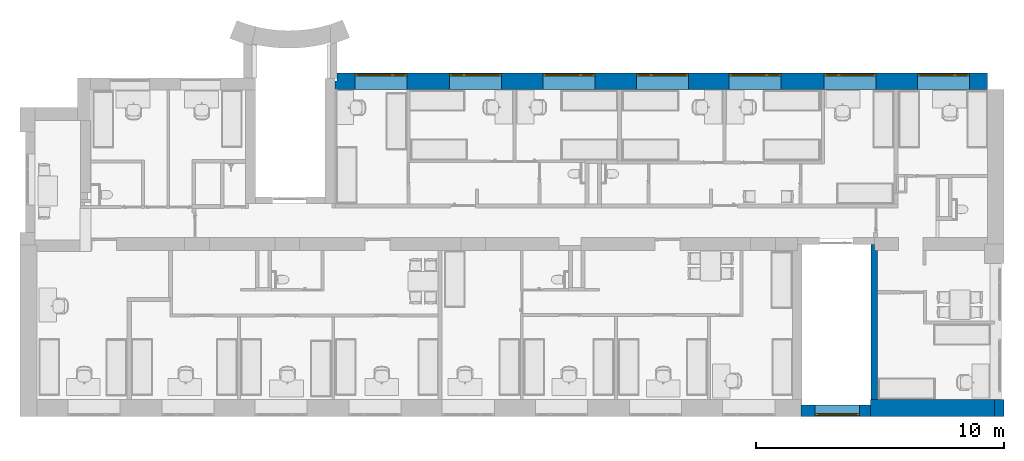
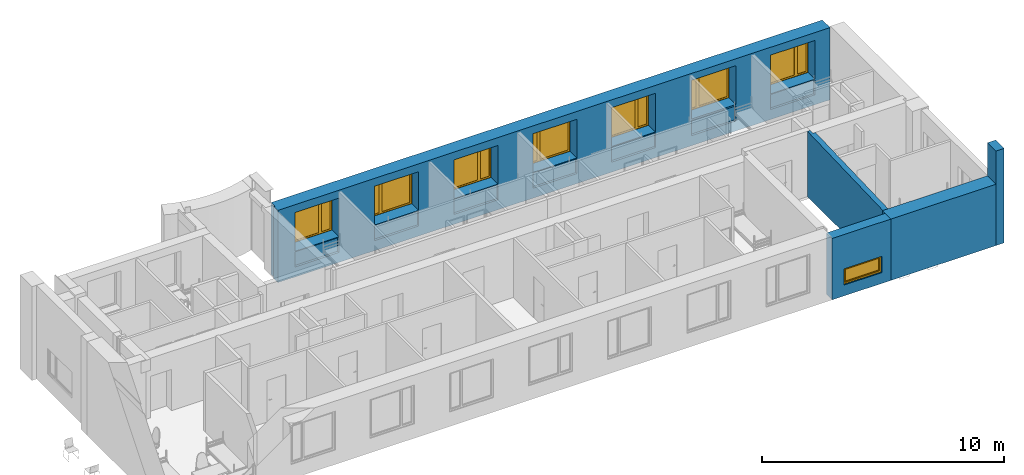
# One storey, part 11 of 46: 8 windows, 5 walls, 10 openings.
"""IFC2X3 building model written with IfcOpenShell, lengths in millimetres."""

from ifc_helpers import new_model, entity, si_unit, converted_unit, derived_unit, direction, frame, frame_2d, origin, place, context, subcontext, project, spatial, polyline, rectangle, outline, extrude, clip, bounded_halfspace, faceted_brep, source, transform, mapped, material, material_list, layer, layer_set, layer_usage, type_object, type_shapes, element, fill, save


model = new_model("IFC2X3")

# Units and contexts
model_context = context("Model", 3, precision=0.01, world=origin(), true_north=direction((6.12303176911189e-17, 1.0)))
body_context = subcontext(model_context, "Body", "Model", "MODEL_VIEW")
ifc_project = project(units=[si_unit("LENGTHUNIT", "METRE", prefix="MILLI"), si_unit("AREAUNIT", "SQUARE_METRE"), si_unit("VOLUMEUNIT", "CUBIC_METRE"), converted_unit("PLANEANGLEUNIT", "DEGREE", entity("IfcRatioMeasure", 0.0174532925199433), si_unit("PLANEANGLEUNIT", "RADIAN"), dimensions=[0, 0, 0, 0, 0, 0, 0]), si_unit("MASSUNIT", "GRAM", prefix="KILO"), derived_unit("MASSDENSITYUNIT", [(si_unit("MASSUNIT", "GRAM", prefix="KILO"), 1), (si_unit("LENGTHUNIT", "METRE"), -3)]), si_unit("TIMEUNIT", "SECOND"), si_unit("FREQUENCYUNIT", "HERTZ"), si_unit("THERMODYNAMICTEMPERATUREUNIT", "DEGREE_CELSIUS"), derived_unit("THERMALTRANSMITTANCEUNIT", [(si_unit("MASSUNIT", "GRAM", prefix="KILO"), 1), (si_unit("THERMODYNAMICTEMPERATUREUNIT", "KELVIN"), -1), (si_unit("TIMEUNIT", "SECOND"), -3)]), derived_unit("VOLUMETRICFLOWRATEUNIT", [(si_unit("LENGTHUNIT", "METRE"), 3), (si_unit("TIMEUNIT", "SECOND"), -1)]), si_unit("ELECTRICCURRENTUNIT", "AMPERE"), si_unit("ELECTRICVOLTAGEUNIT", "VOLT"), si_unit("POWERUNIT", "WATT"), si_unit("FORCEUNIT", "NEWTON", prefix="KILO"), si_unit("ILLUMINANCEUNIT", "LUX"), si_unit("LUMINOUSFLUXUNIT", "LUMEN"), si_unit("LUMINOUSINTENSITYUNIT", "CANDELA"), derived_unit("USERDEFINED", [(si_unit("MASSUNIT", "GRAM", prefix="KILO"), -1), (si_unit("LENGTHUNIT", "METRE"), -2), (si_unit("TIMEUNIT", "SECOND"), 3), (si_unit("LUMINOUSFLUXUNIT", "LUMEN"), 1)]), derived_unit("LINEARVELOCITYUNIT", [(si_unit("LENGTHUNIT", "METRE"), 1), (si_unit("TIMEUNIT", "SECOND"), -1)]), si_unit("PRESSUREUNIT", "PASCAL"), derived_unit("USERDEFINED", [(si_unit("LENGTHUNIT", "METRE"), -2), (si_unit("MASSUNIT", "GRAM", prefix="KILO"), 1), (si_unit("TIMEUNIT", "SECOND"), -2)]), derived_unit("LINEARFORCEUNIT", [(si_unit("MASSUNIT", "GRAM", prefix="KILO"), 1), (si_unit("LENGTHUNIT", "METRE"), 1), (si_unit("TIMEUNIT", "SECOND"), -2), (si_unit("LENGTHUNIT", "METRE"), -1)]), derived_unit("PLANARFORCEUNIT", [(si_unit("MASSUNIT", "GRAM", prefix="KILO"), 1), (si_unit("LENGTHUNIT", "METRE"), 1), (si_unit("TIMEUNIT", "SECOND"), -2), (si_unit("LENGTHUNIT", "METRE"), -2)])], contexts=[model_context])

# Site, building, storey
site_placement = place(None, origin())
site = spatial("IfcSite", under=ifc_project, at=site_placement, Name="Default", CompositionType="ELEMENT")
building_placement = place(site_placement, origin())
building = spatial("IfcBuilding", under=site, at=building_placement, Name="SMA ARH", CompositionType="ELEMENT")
storey_placement = place(building_placement, frame((0.0, 0.0, 9910.0)))
storey = spatial("IfcBuildingStorey", under=building, at=storey_placement, Name="4 Korrus", CompositionType="ELEMENT", Elevation=9909.9999999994)

# Wall, opening
ifc_material_1 = material(Name="_ol.olev sein")
ifc_layer_1 = layer(ifc_material_1, 700.0)
ifc_layer_set_1 = layer_set([ifc_layer_1], Name="Basic Wall:Generic - 700mm")
ifc_layer_usage_1 = layer_usage(ifc_layer_set_1, "AXIS2", "POSITIVE", -350.0)
wall_type_1 = type_object("IfcWallType", Name="Basic Wall:Generic - 700mm", PredefinedType="STANDARD", material=ifc_layer_set_1)
wall_1_placement = place(storey_placement, frame((33580.5990008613, -350.0, 0.0)))
wall_1 = element("IfcWallStandardCase", 1, at=wall_1_placement, inside=storey, type_object=wall_type_1, material=ifc_layer_usage_1, Name="Basic Wall:Generic - 700mm", ObjectType="Basic Wall:Generic - 700mm", context=body_context, shape_type="Clipping", body=[
    clip(extrude(rectangle(XDim=5010.00000000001, YDim=700.0, at=frame_2d((2505.0, -5.6843418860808e-14), x_axis=(-1.0, 0.0))), origin(), (0.0, 0.0, 1.0), 3090.00000000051), bounded_halfspace(frame((0.0, -350.0, 3090.0), z_axis=(0.0, 0.0, -1.0), x_axis=(0.0, -1.0, 0.0)), True, frame((0.0, -350.0, 3090.0), z_axis=(0.0, 0.0, -1.0), x_axis=(0.0, -1.0, 0.0)), polyline([(0.0, 0.0), (-470.0, 0.0), (-700.0, 0.0), (-700.0, -5009.30199827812), (-700.0, -5010.0), (0.0, -5010.0), (0.0, 0.0)]))),
])
opening_1_placement = place(wall_1_placement, origin())
element("IfcOpeningElement", 2, at=opening_1_placement, cuts=wall_1, Name="Basic Wall:Generic - 700mm", ObjectType="Opening", context=body_context, shape_type="SweptSolid", body=[
    extrude(rectangle(XDim=820.0, YDim=1800.0, at=frame_2d((0.0, 0.0), x_axis=(0.0, 1.0))), frame((-1330.59900086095, -1404.0, 955.0), z_axis=(0.0, 1.0, 0.0), x_axis=(-1.0, 0.0, 0.0)), (0.0, 0.0, 1.0), 3048.0),
])

# Wall, openings, windows
ifc_layer_2 = layer(ifc_material_1, 665.0)
ifc_layer_set_2 = layer_set([ifc_layer_2], Name="Basic Wall:Generic - 665mm")
ifc_layer_usage_2 = layer_usage(ifc_layer_set_2, "AXIS2", "POSITIVE", -332.5)
wall_type_2 = type_object("IfcWallType", Name="Basic Wall:Generic - 665mm", PredefinedType="STANDARD", material=ifc_layer_set_2)
wall_2_placement = place(storey_placement, frame((38965.0, 12832.4999999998, -563.353004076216), z_axis=(0.0, 0.0, 1.0), x_axis=(-1.0, 0.0, 0.0)))
wall_2 = element("IfcWallStandardCase", 3, at=wall_2_placement, inside=storey, type_object=wall_type_2, material=ifc_layer_usage_2, Name="Basic Wall:Generic - 665mm", ObjectType="Basic Wall:Generic - 665mm", context=body_context, shape_type="Clipping", body=[
    clip(clip(extrude(outline(polyline([(26895.0, -332.500000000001), (26895.0, 0.0), (26965.0, 0.0), (26965.0, 332.5), (650.0, 332.5), (650.0, -332.5), (26895.0, -332.500000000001)])), origin(), (0.0, 0.0, 1.0), 3708.35300407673), bounded_halfspace(frame((391.75715011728, 332.5, 3636.57531578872), z_axis=(0.0, -0.0348994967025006, 0.999390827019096), x_axis=(1.0, 0.0, 0.0)), False, frame((391.75715011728, 332.5, 3636.57531578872), z_axis=(0.0, -0.0348994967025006, 0.999390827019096), x_axis=(1.0, 0.0, 0.0)), polyline([(0.0, 0.0), (0.0, -665.405346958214), (26503.2428498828, -665.405346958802), (26503.2428498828, -445.271247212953), (26573.2428498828, -445.271247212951), (26573.2428498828, 0.0), (228.242849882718, 0.0), (0.0, 0.0)]))), bounded_halfspace(frame((391.757150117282, -332.499999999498, 3613.35300407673), z_axis=(-1.0, 0.0, 0.0), x_axis=(0.0, -1.0, 0.0)), True, frame((391.757150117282, -332.499999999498, 3613.35300407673), z_axis=(-1.0, 0.0, 0.0), x_axis=(0.0, -1.0, 0.0)), polyline([(0.0, 0.0), (0.0, 95.0), (-665.0, 95.0), (-665.0, 23.2223117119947), (0.0, 0.0)]))),
])
opening_2_placement = place(wall_2_placement, origin())
element("IfcOpeningElement", 4, at=opening_2_placement, cuts=wall_2, Name="Basic Wall:Generic - 665mm", ObjectType="Recess", context=body_context, shape_type="SweptSolid", body=[
    extrude(rectangle(XDim=757.825710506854, YDim=2099.99999999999, at=frame_2d((0.0, 0.0), x_axis=(0.0, 1.0))), frame((21305.0, 232.499999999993, 882.265859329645), z_axis=(0.0, 1.0, 0.0), x_axis=(1.0, 0.0, 0.0)), (0.0, 0.0, 1.0), 99.9999999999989),
    extrude(rectangle(XDim=757.825710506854, YDim=2099.99999999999, at=frame_2d((0.0, 0.0), x_axis=(0.0, 1.0))), frame((25105.0, 232.499999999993, 882.265859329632), z_axis=(0.0, 1.0, 0.0), x_axis=(1.0, 0.0, 0.0)), (0.0, 0.0, 1.0), 99.9999999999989),
    extrude(rectangle(XDim=757.825710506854, YDim=2099.99999999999, at=frame_2d((0.0, 0.0), x_axis=(0.0, 1.0))), frame((17525.0, 232.499999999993, 882.265859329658), z_axis=(0.0, 1.0, 0.0), x_axis=(1.0, 0.0, 0.0)), (0.0, 0.0, 1.0), 99.9999999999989),
    extrude(rectangle(XDim=757.825710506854, YDim=2099.99999999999, at=frame_2d((0.0, 0.0), x_axis=(0.0, 1.0))), frame((13765.0, 232.499999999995, 882.265859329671), z_axis=(0.0, 1.0, 0.0), x_axis=(1.0, 0.0, 0.0)), (0.0, 0.0, 1.0), 99.9999999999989),
    extrude(rectangle(XDim=757.825710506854, YDim=2099.99999999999, at=frame_2d((0.0, 0.0), x_axis=(0.0, 1.0))), frame((10025.0, 232.499999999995, 882.265859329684), z_axis=(0.0, 1.0, 0.0), x_axis=(1.0, 0.0, 0.0)), (0.0, 0.0, 1.0), 99.9999999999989),
    extrude(rectangle(XDim=757.825710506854, YDim=2099.99999999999, at=frame_2d((0.0, 0.0), x_axis=(0.0, 1.0))), frame((6200.0, 232.499999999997, 882.265859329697), z_axis=(0.0, 1.0, 0.0), x_axis=(1.0, 0.0, 0.0)), (0.0, 0.0, 1.0), 99.9999999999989),
    extrude(rectangle(XDim=757.825710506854, YDim=2099.99999999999, at=frame_2d((0.0, 0.0), x_axis=(0.0, 1.0))), frame((2435.0, 232.499999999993, 882.26585932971), z_axis=(0.0, 1.0, 0.0), x_axis=(1.0, 0.0, 0.0)), (0.0, 0.0, 1.0), 100.000000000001),
])
opening_3_placement = place(wall_2_placement, frame((3485.0, 332.499999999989, 1293.35300407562)))
opening_3 = element("IfcOpeningElement", 5, at=opening_3_placement, cuts=wall_2, Name="SMA_W2, 2-jaotus:A-00 - 2100x1900:1", ObjectType="Opening", context=body_context, shape_type="SweptSolid", body=[
    extrude(rectangle(XDim=1950.0, YDim=2100.0, at=frame_2d((974.999999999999, 1050.0), x_axis=(1.0, 0.0))), frame((0.0, 0.0, 0.0), z_axis=(0.0, -1.0, 0.0), x_axis=(0.0, 0.0, 1.0)), (0.0, 0.0, 1.0), 665.0),
])
opening_4_placement = place(wall_2_placement, frame((7250.0, 332.499999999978, 1338.35300407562)))
opening_4 = element("IfcOpeningElement", 6, at=opening_4_placement, cuts=wall_2, Name="SMA_W2, 2-jaotus:A-00 - 2100x1900:1", ObjectType="Opening", context=body_context, shape_type="SweptSolid", body=[
    extrude(rectangle(XDim=1950.0, YDim=2100.0, at=frame_2d((974.999999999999, 1050.0), x_axis=(1.0, 0.0))), frame((0.0, 0.0, 0.0), z_axis=(0.0, -1.0, 0.0), x_axis=(0.0, 0.0, 1.0)), (0.0, 0.0, 1.0), 665.0),
])
opening_5_placement = place(wall_2_placement, frame((11075.0, 332.499999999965, 1293.35300407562)))
opening_5 = element("IfcOpeningElement", 7, at=opening_5_placement, cuts=wall_2, Name="SMA_W2, 2-jaotus:A-00 - 2100x1900:1", ObjectType="Opening", context=body_context, shape_type="SweptSolid", body=[
    extrude(rectangle(XDim=1950.0, YDim=2100.0, at=frame_2d((974.999999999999, 1050.0), x_axis=(1.0, 0.0))), frame((0.0, 0.0, 0.0), z_axis=(0.0, -1.0, 0.0), x_axis=(0.0, 0.0, 1.0)), (0.0, 0.0, 1.0), 665.0),
])
opening_6_placement = place(wall_2_placement, frame((14815.0, 332.499999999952, 1293.35300407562)))
opening_6 = element("IfcOpeningElement", 8, at=opening_6_placement, cuts=wall_2, Name="SMA_W2, 2-jaotus:A-00 - 2100x1900:1", ObjectType="Opening", context=body_context, shape_type="SweptSolid", body=[
    extrude(rectangle(XDim=1950.0, YDim=2100.0, at=frame_2d((974.999999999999, 1050.0), x_axis=(1.0, 0.0))), frame((0.0, 0.0, 0.0), z_axis=(0.0, -1.0, 0.0), x_axis=(0.0, 0.0, 1.0)), (0.0, 0.0, 1.0), 665.0),
])
opening_7_placement = place(wall_2_placement, frame((18575.0, 332.499999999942, 1293.35300407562)))
opening_7 = element("IfcOpeningElement", 9, at=opening_7_placement, cuts=wall_2, Name="SMA_W2, 2-jaotus:A-00 - 2100x1900:1", ObjectType="Opening", context=body_context, shape_type="SweptSolid", body=[
    extrude(rectangle(XDim=1950.0, YDim=2100.0, at=frame_2d((974.999999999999, 1050.0), x_axis=(1.0, 0.0))), frame((0.0, 0.0, 0.0), z_axis=(0.0, -1.0, 0.0), x_axis=(0.0, 0.0, 1.0)), (0.0, 0.0, 1.0), 665.0),
])
opening_8_placement = place(wall_2_placement, frame((22355.0, 332.499999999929, 1293.35300407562)))
opening_8 = element("IfcOpeningElement", 10, at=opening_8_placement, cuts=wall_2, Name="SMA_W2, 2-jaotus:A-00 - 2100x1900:1", ObjectType="Opening", context=body_context, shape_type="SweptSolid", body=[
    extrude(rectangle(XDim=1950.0, YDim=2100.0, at=frame_2d((974.999999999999, 1050.0), x_axis=(1.0, 0.0))), frame((0.0, 0.0, 0.0), z_axis=(0.0, -1.0, 0.0), x_axis=(0.0, 0.0, 1.0)), (0.0, 0.0, 1.0), 665.0),
])
opening_9_placement = place(wall_2_placement, frame((26155.0, 332.499999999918, 1293.35300407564)))
opening_9 = element("IfcOpeningElement", 11, at=opening_9_placement, cuts=wall_2, Name="SMA_W2, 2-jaotus:A-00 - 2100x1900:1", ObjectType="Opening", context=body_context, shape_type="SweptSolid", body=[
    extrude(rectangle(XDim=1950.0, YDim=2100.0, at=frame_2d((974.999999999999, 1050.0), x_axis=(1.0, 0.0))), frame((0.0, 0.0, 0.0), z_axis=(0.0, -1.0, 0.0), x_axis=(0.0, 0.0, 1.0)), (0.0, 0.0, 1.0), 665.0),
])
ifc_material_2 = material(Name="Glass")
ifc_material_3 = material(Name="Hall")
ifc_material_list_1 = material_list([ifc_material_2, ifc_material_3])
ifc_material_4 = material(Name="<Unnamed>")
ifc_material_list_2 = material_list([ifc_material_3, ifc_material_4, ifc_material_3, ifc_material_4, ifc_material_2])
window_style_1 = type_object("IfcWindowStyle", Name="SMA_W2, 2-jaotus:A-00 - 2100x1900", ConstructionType="NOTDEFINED", OperationType="NOTDEFINED", ParameterTakesPrecedence=False, Sizeable=False, material=ifc_material_list_2)
shared_shape_1 = source(origin(), body_context, "Body", "Brep", [
    faceted_brep([(105.0, 555.0, 1845.0), (105.0, 555.0, 105.0), (1440.0, 555.0, 105.0), (1440.0, 555.0, 1845.0), (105.0, 575.0, 1845.0), (105.0, 575.0, 105.0), (1440.0, 575.0, 105.0), (1440.0, 575.0, 1845.0)], [[[0, 1, 2, 3]], [[1, 0, 4, 5]], [[2, 1, 5, 6]], [[3, 2, 6, 7]], [[4, 7, 6, 5]], [[0, 3, 7, 4]]]),
    faceted_brep([(1580.0, 555.0, 105.0), (1995.0, 555.0, 105.0), (1995.0, 555.0, 1845.0), (1580.0, 555.0, 1845.0), (1580.0, 575.0, 105.0), (1995.0, 575.0, 105.0), (1995.0, 575.0, 1845.0), (1580.0, 575.0, 1845.0)], [[[0, 1, 2, 3]], [[1, 0, 4, 5]], [[2, 1, 5, 6]], [[0, 3, 7, 4]], [[4, 7, 6, 5]], [[3, 2, 6, 7]]]),
    faceted_brep([(35.0, 540.0, 35.0), (1510.0, 540.0, 35.0), (1510.0, 540.0, 1915.0), (35.0, 540.0, 1915.0), (1440.0, 540.0, 1845.0), (1440.0, 540.0, 105.0), (105.0, 540.0, 105.0), (105.0, 540.0, 1845.0), (35.0, 590.0, 35.0), (1510.0, 590.0, 35.0), (1510.0, 590.0, 1915.0), (35.0, 590.0, 1915.0), (1440.0, 590.0, 1845.0), (1440.0, 590.0, 105.0), (105.0, 590.0, 105.0), (105.0, 590.0, 1845.0)], [[[0, 1, 2, 3], [4, 5, 6, 7]], [[1, 0, 8, 9]], [[2, 1, 9, 10]], [[0, 3, 11, 8]], [[5, 4, 12, 13]], [[6, 5, 13, 14]], [[7, 6, 14, 15]], [[8, 11, 10, 9], [12, 15, 14, 13]], [[3, 2, 10, 11]], [[4, 7, 15, 12]]]),
    faceted_brep([(1510.0, 540.0, 35.0), (2065.0, 540.0, 35.0), (2065.0, 540.0, 1915.0), (1510.0, 540.0, 1915.0), (1995.0, 540.0, 1845.0), (1995.0, 540.0, 105.0), (1580.0, 540.0, 105.0), (1580.0, 540.0, 1845.0), (1510.0, 590.0, 35.0), (2065.0, 590.0, 35.0), (2065.0, 590.0, 1915.0), (1510.0, 590.0, 1915.0), (1995.0, 590.0, 1845.0), (1995.0, 590.0, 105.0), (1580.0, 590.0, 105.0), (1580.0, 590.0, 1845.0)], [[[0, 1, 2, 3], [4, 5, 6, 7]], [[1, 0, 8, 9]], [[2, 1, 9, 10]], [[0, 3, 11, 8]], [[5, 4, 12, 13]], [[6, 5, 13, 14]], [[7, 6, 14, 15]], [[8, 11, 10, 9], [12, 15, 14, 13]], [[3, 2, 10, 11]], [[4, 7, 15, 12]]]),
    faceted_brep([(0.0, 565.0, 0.0), (2100.0, 565.0, 0.0), (2100.0, 565.0, 1950.0), (0.0, 565.0, 1950.0), (2065.0, 565.0, 35.0), (1510.0, 565.0, 35.0), (1510.0, 565.0, 1915.0), (2065.0, 565.0, 1915.0), (70.0, 565.0, 1880.0), (1475.0, 565.0, 1880.0), (1475.0, 565.0, 70.0), (70.0, 565.0, 70.0), (0.0, 615.0, 0.0), (2100.0, 615.0, 0.0), (2100.0, 615.0, 1950.0), (0.0, 615.0, 1950.0), (1475.0, 615.0, 1880.0), (1475.0, 615.0, 70.0), (70.0, 615.0, 70.0), (70.0, 615.0, 1880.0), (2065.0, 590.0, 35.0), (1510.0, 590.0, 35.0), (1510.0, 590.0, 1915.0), (2065.0, 590.0, 1915.0), (1545.0, 615.0, 1880.0), (1545.0, 615.0, 70.0), (2030.0, 615.0, 70.0), (2030.0, 615.0, 1880.0), (1545.0, 590.0, 1880.0), (1545.0, 590.0, 70.0), (2030.0, 590.0, 70.0), (2030.0, 590.0, 1880.0)], [[[0, 1, 2, 3], [4, 5, 6, 7], [8, 9, 10, 11]], [[1, 0, 12, 13]], [[2, 1, 13, 14]], [[0, 3, 15, 12]], [[10, 9, 16, 17]], [[11, 10, 17, 18]], [[8, 11, 18, 19]], [[20, 21, 5, 4]], [[21, 22, 6, 5]], [[23, 20, 4, 7]], [[12, 15, 14, 13], [19, 18, 17, 16], [24, 25, 26, 27]], [[25, 24, 28, 29]], [[26, 25, 29, 30]], [[27, 26, 30, 31]], [[21, 20, 23, 22], [28, 31, 30, 29]], [[3, 2, 14, 15]], [[9, 8, 19, 16]], [[22, 23, 7, 6]], [[24, 27, 31, 28]]]),
])
type_shapes(window_style_1, [shared_shape_1])
window_1_placement = place(opening_3_placement, frame((0.0, 0.0, 0.0), z_axis=(0.0, 0.0, 1.0), x_axis=(-1.0, 0.0, 0.0)))
window_1 = element("IfcWindow", 12, at=window_1_placement, inside=storey, type_object=window_style_1, material=ifc_material_list_1, Name="SMA_W2, 2-jaotus:A-00 - 2100x1900", ObjectType="SMA_W2, 2-jaotus:A-00 - 2100x1900", OverallHeight=1950.0, OverallWidth=2100.0, context=body_context, shape_type="MappedRepresentation", body=[
    mapped(shared_shape_1, transform((0.0, 0.0, 0.0), scale=1.0)),
])
fill(opening_3, window_1)
ifc_material_list_3 = material_list([ifc_material_2, ifc_material_3])
window_2_placement = place(opening_5_placement, frame((0.0, 0.0, 0.0), z_axis=(0.0, 0.0, 1.0), x_axis=(-1.0, 0.0, 0.0)))
window_2 = element("IfcWindow", 13, at=window_2_placement, inside=storey, type_object=window_style_1, material=ifc_material_list_3, Name="SMA_W2, 2-jaotus:A-00 - 2100x1900", ObjectType="SMA_W2, 2-jaotus:A-00 - 2100x1900", OverallHeight=1950.0, OverallWidth=2100.0, context=body_context, shape_type="MappedRepresentation", body=[
    mapped(shared_shape_1, transform((0.0, 0.0, 0.0), scale=1.0)),
])
fill(opening_5, window_2)
ifc_material_list_4 = material_list([ifc_material_2, ifc_material_3])
window_3_placement = place(opening_7_placement, frame((0.0, 0.0, 0.0), z_axis=(0.0, 0.0, 1.0), x_axis=(-1.0, 0.0, 0.0)))
window_3 = element("IfcWindow", 14, at=window_3_placement, inside=storey, type_object=window_style_1, material=ifc_material_list_4, Name="SMA_W2, 2-jaotus:A-00 - 2100x1900", ObjectType="SMA_W2, 2-jaotus:A-00 - 2100x1900", OverallHeight=1950.0, OverallWidth=2100.0, context=body_context, shape_type="MappedRepresentation", body=[
    mapped(shared_shape_1, transform((0.0, 0.0, 0.0), scale=1.0)),
])
fill(opening_7, window_3)
ifc_material_list_5 = material_list([ifc_material_2, ifc_material_3])
window_4_placement = place(opening_9_placement, frame((0.0, 0.0, 0.0), z_axis=(0.0, 0.0, 1.0), x_axis=(-1.0, 0.0, 0.0)))
window_4 = element("IfcWindow", 15, at=window_4_placement, inside=storey, type_object=window_style_1, material=ifc_material_list_5, Name="SMA_W2, 2-jaotus:A-00 - 2100x1900", ObjectType="SMA_W2, 2-jaotus:A-00 - 2100x1900", OverallHeight=1950.0, OverallWidth=2100.0, context=body_context, shape_type="MappedRepresentation", body=[
    mapped(shared_shape_1, transform((0.0, 0.0, 0.0), scale=1.0)),
])
fill(opening_9, window_4)
ifc_material_list_6 = material_list([ifc_material_2, ifc_material_3])
ifc_material_list_7 = material_list([ifc_material_3, ifc_material_4, ifc_material_3, ifc_material_4, ifc_material_2])
window_style_2 = type_object("IfcWindowStyle", Name="SMA_W2, 2-jaotus:A-00 - 2100x1900", ConstructionType="NOTDEFINED", OperationType="NOTDEFINED", ParameterTakesPrecedence=False, Sizeable=False, material=ifc_material_list_7)
shared_shape_2 = source(origin(), body_context, "Body", "Brep", [
    faceted_brep([(1995.0, 555.0, 1845.0), (660.0, 555.0, 1845.0), (660.0, 555.0, 105.0), (1995.0, 555.0, 105.0), (1995.0, 575.0, 105.0), (1995.0, 575.0, 1845.0), (660.0, 575.0, 105.0), (660.0, 575.0, 1845.0)], [[[0, 1, 2, 3]], [[3, 4, 5, 0]], [[2, 6, 4, 3]], [[1, 7, 6, 2]], [[5, 4, 6, 7]], [[0, 5, 7, 1]]]),
    faceted_brep([(520.0, 555.0, 105.0), (520.0, 555.0, 1845.0), (105.0, 555.0, 1845.0), (105.0, 555.0, 105.0), (105.0, 575.0, 105.0), (520.0, 575.0, 105.0), (105.0, 575.0, 1845.0), (520.0, 575.0, 1845.0)], [[[0, 1, 2, 3]], [[3, 4, 5, 0]], [[2, 6, 4, 3]], [[0, 5, 7, 1]], [[5, 4, 6, 7]], [[1, 7, 6, 2]]]),
    faceted_brep([(2065.0, 540.0, 35.0), (2065.0, 540.0, 1915.0), (590.0, 540.0, 1915.0), (590.0, 540.0, 35.0), (660.0, 540.0, 1845.0), (1995.0, 540.0, 1845.0), (1995.0, 540.0, 105.0), (660.0, 540.0, 105.0), (590.0, 590.0, 35.0), (2065.0, 590.0, 35.0), (590.0, 590.0, 1915.0), (2065.0, 590.0, 1915.0), (660.0, 590.0, 105.0), (660.0, 590.0, 1845.0), (1995.0, 590.0, 105.0), (1995.0, 590.0, 1845.0)], [[[0, 1, 2, 3], [4, 5, 6, 7]], [[3, 8, 9, 0]], [[2, 10, 8, 3]], [[0, 9, 11, 1]], [[7, 12, 13, 4]], [[6, 14, 12, 7]], [[5, 15, 14, 6]], [[9, 8, 10, 11], [13, 12, 14, 15]], [[1, 11, 10, 2]], [[4, 13, 15, 5]]]),
    faceted_brep([(590.0, 540.0, 35.0), (590.0, 540.0, 1915.0), (35.0, 540.0, 1915.0), (35.0, 540.0, 35.0), (105.0, 540.0, 1845.0), (520.0, 540.0, 1845.0), (520.0, 540.0, 105.0), (105.0, 540.0, 105.0), (35.0, 590.0, 35.0), (590.0, 590.0, 35.0), (35.0, 590.0, 1915.0), (590.0, 590.0, 1915.0), (105.0, 590.0, 105.0), (105.0, 590.0, 1845.0), (520.0, 590.0, 105.0), (520.0, 590.0, 1845.0)], [[[0, 1, 2, 3], [4, 5, 6, 7]], [[3, 8, 9, 0]], [[2, 10, 8, 3]], [[0, 9, 11, 1]], [[7, 12, 13, 4]], [[6, 14, 12, 7]], [[5, 15, 14, 6]], [[9, 8, 10, 11], [13, 12, 14, 15]], [[1, 11, 10, 2]], [[4, 13, 15, 5]]]),
    faceted_brep([(35.0, 565.0, 35.0), (35.0, 565.0, 1915.0), (590.0, 565.0, 1915.0), (590.0, 565.0, 35.0), (2030.0, 565.0, 1880.0), (2030.0, 565.0, 70.0), (625.0, 565.0, 70.0), (625.0, 565.0, 1880.0), (2100.0, 565.0, 0.0), (2100.0, 565.0, 1950.0), (0.0, 565.0, 1950.0), (0.0, 565.0, 0.0), (0.0, 615.0, 0.0), (2100.0, 615.0, 0.0), (0.0, 615.0, 1950.0), (2100.0, 615.0, 1950.0), (625.0, 615.0, 70.0), (625.0, 615.0, 1880.0), (2030.0, 615.0, 70.0), (2030.0, 615.0, 1880.0), (35.0, 590.0, 35.0), (590.0, 590.0, 35.0), (590.0, 590.0, 1915.0), (35.0, 590.0, 1915.0), (555.0, 615.0, 1880.0), (70.0, 615.0, 1880.0), (70.0, 615.0, 70.0), (555.0, 615.0, 70.0), (555.0, 590.0, 70.0), (555.0, 590.0, 1880.0), (70.0, 590.0, 70.0), (70.0, 590.0, 1880.0)], [[[0, 1, 2, 3], [4, 5, 6, 7], [8, 9, 10, 11]], [[11, 12, 13, 8]], [[10, 14, 12, 11]], [[8, 13, 15, 9]], [[6, 16, 17, 7]], [[5, 18, 16, 6]], [[4, 19, 18, 5]], [[20, 0, 3, 21]], [[21, 3, 2, 22]], [[23, 1, 0, 20]], [[13, 12, 14, 15], [19, 17, 16, 18], [24, 25, 26, 27]], [[27, 28, 29, 24]], [[26, 30, 28, 27]], [[25, 31, 30, 26]], [[21, 22, 23, 20], [29, 28, 30, 31]], [[9, 15, 14, 10]], [[7, 17, 19, 4]], [[22, 2, 1, 23]], [[24, 29, 31, 25]]], outer=[[False, False, True], [True], [True], [True], [True], [True], [True], [True], [True], [True], [True, False, False], [True], [True], [True], [True, False], [True], [True], [True], [True]]),
])
type_shapes(window_style_2, [shared_shape_2])
window_5_placement = place(opening_4_placement, frame((0.0, 0.0, 0.0), z_axis=(0.0, 0.0, 1.0), x_axis=(-1.0, 0.0, 0.0)))
window_5 = element("IfcWindow", 16, at=window_5_placement, inside=storey, type_object=window_style_2, material=ifc_material_list_6, Name="SMA_W2, 2-jaotus:A-00 - 2100x1900", ObjectType="SMA_W2, 2-jaotus:A-00 - 2100x1900", OverallHeight=1950.0, OverallWidth=2100.0, context=body_context, shape_type="MappedRepresentation", body=[
    mapped(shared_shape_2, transform((0.0, 0.0, 0.0), scale=1.0)),
])
fill(opening_4, window_5)
ifc_material_list_8 = material_list([ifc_material_2, ifc_material_3])
window_6_placement = place(opening_6_placement, frame((0.0, 0.0, 0.0), z_axis=(0.0, 0.0, 1.0), x_axis=(-1.0, 0.0, 0.0)))
window_6 = element("IfcWindow", 17, at=window_6_placement, inside=storey, type_object=window_style_2, material=ifc_material_list_8, Name="SMA_W2, 2-jaotus:A-00 - 2100x1900", ObjectType="SMA_W2, 2-jaotus:A-00 - 2100x1900", OverallHeight=1950.0, OverallWidth=2100.0, context=body_context, shape_type="MappedRepresentation", body=[
    mapped(shared_shape_2, transform((0.0, 0.0, 0.0), scale=1.0)),
])
fill(opening_6, window_6)
ifc_material_list_9 = material_list([ifc_material_2, ifc_material_3])
window_7_placement = place(opening_8_placement, frame((0.0, 0.0, 0.0), z_axis=(0.0, 0.0, 1.0), x_axis=(-1.0, 0.0, 0.0)))
window_7 = element("IfcWindow", 18, at=window_7_placement, inside=storey, type_object=window_style_2, material=ifc_material_list_9, Name="SMA_W2, 2-jaotus:A-00 - 2100x1900", ObjectType="SMA_W2, 2-jaotus:A-00 - 2100x1900", OverallHeight=1950.0, OverallWidth=2100.0, context=body_context, shape_type="MappedRepresentation", body=[
    mapped(shared_shape_2, transform((0.0, 0.0, 0.0), scale=1.0)),
])
fill(opening_8, window_7)

# Walls
ifc_layer_3 = layer(ifc_material_1, 250.0)
ifc_layer_set_3 = layer_set([ifc_layer_3], Name="Basic Wall:Generic - 250mm")
ifc_layer_usage_3 = layer_usage(ifc_layer_set_3, "AXIS2", "NEGATIVE", 125.0)
wall_type_3 = type_object("IfcWallType", Name="Basic Wall:Generic - 250mm", PredefinedType="STANDARD", material=ifc_layer_set_3)
wall_3_placement = place(storey_placement, frame((33740.0, 6240.0, 0.0), z_axis=(0.0, 0.0, 1.0), x_axis=(0.0, -1.0, 0.0)))
element("IfcWallStandardCase", 19, at=wall_3_placement, inside=storey, type_object=wall_type_3, material=ifc_layer_usage_3, Name="Basic Wall:Generic - 250mm", ObjectType="Basic Wall:Generic - 250mm", context=body_context, shape_type="Clipping", body=[
    clip(clip(extrude(outline(polyline([(6240.0, -125.0), (6240.0, -105.0), (6240.0, 125.0), (1986.50000000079, 125.0), (1841.50000000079, 125.0), (230.0, 125.0), (230.0, 0.0), (0.0, 0.0), (0.0, -125.0), (6240.0, -125.0)])), origin(), (0.0, 0.0, 1.0), 3292.08823450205), bounded_halfspace(frame((0.0, 0.0, 3291.82632873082), z_axis=(-0.0348994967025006, 0.0, 0.999390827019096), x_axis=(0.0, -1.0, 0.0)), False, frame((0.0, 0.0, 3291.82632873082)), polyline([(0.0, 0.0), (0.0, -125.0), (7.50000000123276, -125.0), (7.50000000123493, 0.0), (0.0, 0.0)]))), bounded_halfspace(frame((6240.0, 125.0, 3074.44453864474), z_axis=(0.0348994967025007, 0.0, 0.999390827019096), x_axis=(0.0, 1.0, 0.0)), False, frame((6240.0, 125.0, 3074.44453864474)), polyline([(0.0, 0.0), (-6010.0, 0.0), (-6010.0, -125.0), (-6232.49999999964, -125.0), (-6232.49999999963, -250.0), (0.0, -250.0), (0.0, 0.0)]))),
])
ifc_layer_4 = layer(ifc_material_1, 380.0)
ifc_layer_set_4 = layer_set([ifc_layer_4], Name="Basic Wall:Generic - 380mm")
ifc_layer_usage_4 = layer_usage(ifc_layer_set_4, "AXIS2", "POSITIVE", -190.0)
wall_type_4 = type_object("IfcWallType", Name="Basic Wall:Generic - 380mm", PredefinedType="STANDARD", material=ifc_layer_set_4)
wall_4_placement = place(storey_placement, frame((38780.5990008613, -700.0, 0.0), z_axis=(0.0, 0.0, 1.0), x_axis=(0.0, 1.0, 0.0)))
element("IfcWallStandardCase", 20, at=wall_4_placement, inside=storey, type_object=wall_type_4, material=ifc_layer_usage_4, Name="Basic Wall:Generic - 380mm", ObjectType="Basic Wall:Generic - 380mm", context=body_context, shape_type="SweptSolid", body=[
    extrude(rectangle(XDim=700.0, YDim=380.0, at=frame_2d((350.0, 0.0), x_axis=(-1.0, 0.0))), origin(), (0.0, 0.0, 1.0), 4760.00000000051),
])

# Wall, opening, window
ifc_layer_5 = layer(ifc_material_1, 470.0)
ifc_layer_set_5 = layer_set([ifc_layer_5], Name="Basic Wall:Generic - 470mm")
ifc_layer_usage_5 = layer_usage(ifc_layer_set_5, "AXIS2", "POSITIVE", -235.0)
wall_type_5 = type_object("IfcWallType", Name="Basic Wall:Generic - 470mm", PredefinedType="STANDARD", material=ifc_layer_set_5)
wall_5_placement = place(storey_placement, frame((30780.5990008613, -465.0, 0.0)))
wall_5 = element("IfcWallStandardCase", 21, at=wall_5_placement, inside=storey, type_object=wall_type_5, material=ifc_layer_usage_5, Name="Basic Wall:Generic - 470mm", ObjectType="Basic Wall:Generic - 470mm", context=body_context, shape_type="Clipping", body=[
    clip(extrude(rectangle(XDim=2800.0, YDim=470.0, at=frame_2d((1400.0, -1.4210854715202e-14), x_axis=(-1.0, 0.0))), origin(), (0.0, 0.0, 1.0), 3090.00000000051), bounded_halfspace(frame((0.0, -235.0, 3090.0), z_axis=(0.0, 0.0, -1.0), x_axis=(0.0, -1.0, 0.0)), True, frame((0.0, -235.0, 3090.0), z_axis=(0.0, 0.0, -1.0), x_axis=(0.0, -1.0, 0.0)), polyline([(0.0, 0.0), (-470.0, 0.0), (-470.0, -2800.0), (0.0, -2800.0), (0.0, 0.0)]))),
])
opening_10_placement = place(wall_5_placement, frame((2369.40099913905, 235.0, 545.0)))
opening_10 = element("IfcOpeningElement", 22, at=opening_10_placement, cuts=wall_5, Name="SMA_W1, 1-jaotus1:A-00_18000x600 mm:1", ObjectType="Opening", context=body_context, shape_type="SweptSolid", body=[
    extrude(rectangle(XDim=820.0, YDim=1800.0, at=frame_2d((410.0, 900.0), x_axis=(1.0, 0.0))), frame((0.0, 0.0, 0.0), z_axis=(0.0, -1.0, 0.0), x_axis=(0.0, 0.0, 1.0)), (0.0, 0.0, 1.0), 470.0),
])
ifc_material_5 = material(Name="EST. Klaas. 3x. Default")
ifc_material_6 = material(Name="Default")
ifc_material_list_10 = material_list([ifc_material_5, ifc_material_6])
ifc_material_list_11 = material_list([ifc_material_4, ifc_material_4, ifc_material_6, ifc_material_6, ifc_material_5])
window_style_3 = type_object("IfcWindowStyle", Name="SMA_W1, 1-jaotus1:A-00_18000x600 mm", ConstructionType="NOTDEFINED", OperationType="NOTDEFINED", ParameterTakesPrecedence=False, Sizeable=False, material=ifc_material_list_11)
shared_shape_3 = source(origin(), body_context, "Body", "SweptSolid", [
    extrude(rectangle(XDim=20.0, YDim=1570.0, at=frame_2d((-7.99360577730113e-15, -5.6843418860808e-14), x_axis=(1.0, 0.0))), frame((900.0, 370.0, 115.0), z_axis=(0.0, 0.0, 1.0), x_axis=(0.0, 1.0, 0.0)), (0.0, 0.0, 1.0), 590.0),
    extrude(outline(polyline([(-365.0, -855.0), (365.0, -855.0), (365.0, 855.0), (-365.0, 855.0), (-365.0, -855.0)]), holes=[polyline([(295.0, 785.0), (295.0, -785.0), (-295.0, -785.0), (-295.0, 785.0), (295.0, 785.0)])]), frame((900.0, 345.0, 410.0), z_axis=(0.0, 1.0, 0.0), x_axis=(0.0, 0.0, 1.0)), (0.0, 0.0, 1.0), 50.0),
    extrude(outline(polyline([(-400.0, -890.0), (400.0, -890.0), (400.0, 890.0), (-400.0, 890.0), (-400.0, -890.0)]), holes=[polyline([(-330.0, -820.0), (-330.0, 820.0), (330.0, 820.0), (330.0, -820.0), (-330.0, -820.0)])]), frame((900.0, 370.0, 410.0), z_axis=(0.0, 1.0, 0.0), x_axis=(0.0, 0.0, 1.0)), (0.0, 0.0, 1.0), 50.0),
])
type_shapes(window_style_3, [shared_shape_3])
window_8_placement = place(opening_10_placement, frame((0.0, 0.0, 0.0), z_axis=(0.0, 0.0, 1.0), x_axis=(-1.0, 0.0, 0.0)))
window_8 = element("IfcWindow", 23, at=window_8_placement, inside=storey, type_object=window_style_3, material=ifc_material_list_10, Name="SMA_W1, 1-jaotus1:A-00_18000x600 mm", ObjectType="SMA_W1, 1-jaotus1:A-00_18000x600 mm", OverallHeight=820.0, OverallWidth=1800.0, context=body_context, shape_type="MappedRepresentation", body=[
    mapped(shared_shape_3, transform((0.0, 0.0, 0.0), scale=1.0)),
])
fill(opening_10, window_8)

save(model, "model.ifc")
